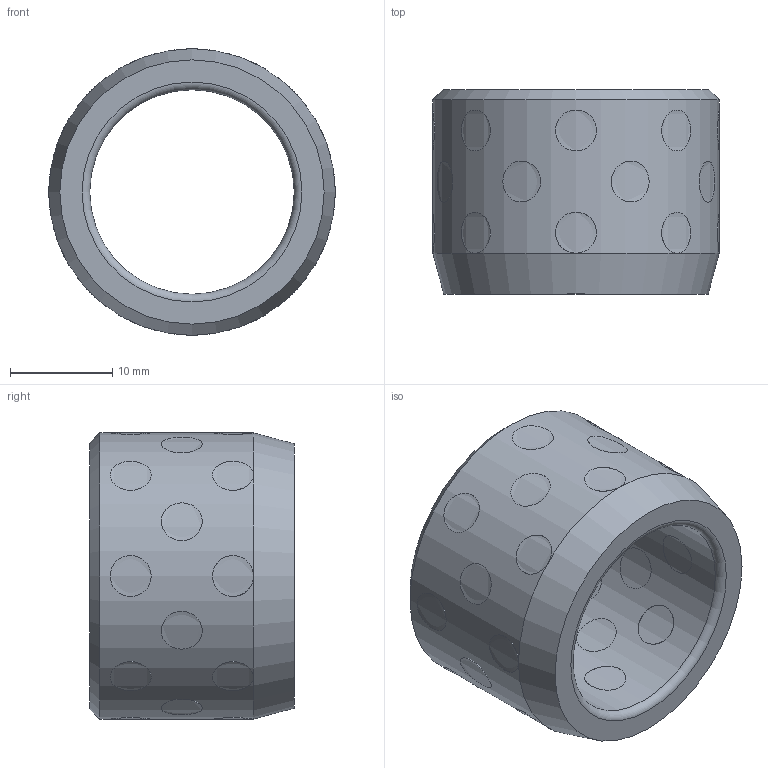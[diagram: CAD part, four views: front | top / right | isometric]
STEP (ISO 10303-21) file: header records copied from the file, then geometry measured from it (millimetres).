
FILE_DESCRIPTION( ( 'STEP AP203' ), '1' );
FILE_NAME( 'D:/Cuma/18 03 2010/D30.04/D30.04_202028.step', '2003-01-24T23:29:42', ( ' ' ), ( ' ' ), 'XStep 1.0', ' ', ' ' );
FILE_SCHEMA( ( 'CONFIG_CONTROL_DESIGN' ) );
Length unit declared in the file: metre
Products named in the file (33): 1; 2; 3; 4; 5; 6; 7; 8; 9; 10; 11; 12; 13; 14; 15; 16; 17; 18; 19; 20; 21; 22; 23; 24; 25; 26; 27; 28; 29; 30; 31; 32; 33
Bounding box: 28 x 20 x 28 mm (x, y, z)
Volume: 7404 mm3; surface area: 5861.6 mm2
Topology: 33 solids, 33 shells, 104 faces, 110 edges, 72 vertices
Faces by surface type: cylinder 98, torus 2, plane 2, cone 2
Full cylindrical faces by diameter (mm): 4 x32, 20 x1, 28 x1
Entity records: 6421 total; most frequent: CARTESIAN_POINT 3673, DIRECTION 290, CC_DESIGN_PERSON_AND_ORGANIZATION_ASSIGNMENT 165, AXIS2_PLACEMENT_3D 145, EDGE_LOOP 144, ORIENTED_EDGE 144, FACE_OUTER_BOUND 140, PERSON_AND_ORGANIZATION_ROLE 132
